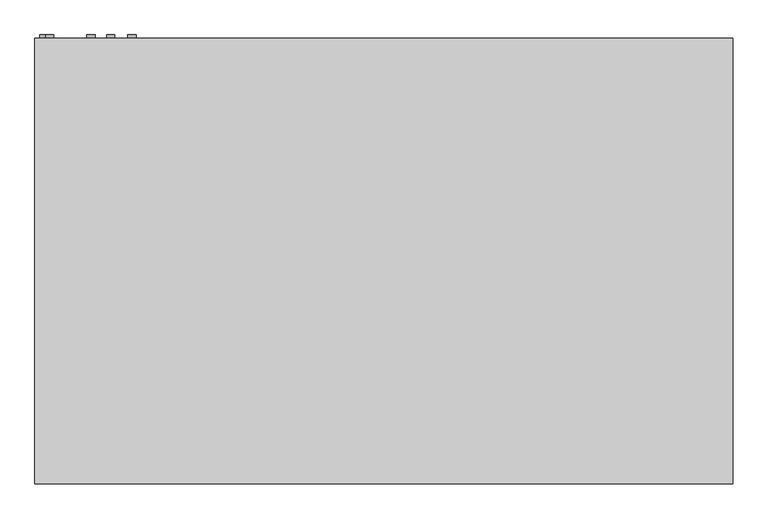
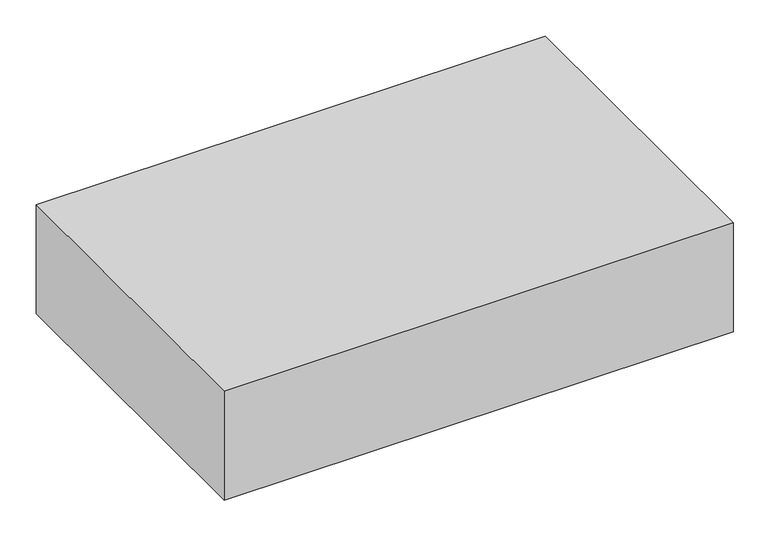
"""IFC4 building model written with IfcOpenShell, lengths in millimetres: proxy geometry, Exposed_Horizontal_Fan_Coil_Unit_-_42CGB_-_CARRIER_-_4-Pipe_BS-BR_LH_2022 : Size 06 - 277v/60Hz/1Ph - 4/1 Coil."""

from ifc_helpers import new_model, si_unit, point, frame, frame_2d, origin, place, context, project, spatial, polyline, circle_curve, trimmed, segment, composite_curve, outline, extrude, source, transform, mapped, element, save


def mechanical_equipment_954641ab(model_context):
    return source(origin(), model_context, "Body", "SweptSolid", [
        extrude(outline(polyline([(592.1375, -439.7375), (592.1375, -611.1875), (-287.3375, -611.1875), (-287.3375, -439.7375), (592.1375, -439.7375)])), frame((0.0, 0.0, -311.15), z_axis=(0.0, 0.0, 1.0), x_axis=(1.0, 0.0, 0.0)), (0.0, 0.0, 1.0), 6.35),
        extrude(outline(composite_curve([segment(trimmed(circle_curve(frame_2d((-261.434158, -501.8546393)), 9.525), [point((-261.434158, -492.3296393))], [point((-261.434158, -511.3796393))], False, "CARTESIAN"), True, "CONTINUOUS"), segment(trimmed(circle_curve(frame_2d((-261.434158, -501.8546393)), 9.525), [point((-261.434158, -511.3796393))], [point((-261.434158, -492.3296393))], False, "CARTESIAN"), True, "CONTINUOUS")], self_intersect=False)), frame((0.0, 192.0875, 0.0), z_axis=(0.0, 1.0, 0.0), x_axis=(0.0, 0.0, 1.0)), (0.0, 0.0, 1.0), 6.35),
        extrude(outline(composite_curve([segment(trimmed(circle_curve(frame_2d((-85.725, -492.125)), 7.9375), [point((-85.725, -484.1875))], [point((-85.725, -500.0625))], False, "CARTESIAN"), True, "CONTINUOUS"), segment(trimmed(circle_curve(frame_2d((-85.725, -492.125)), 7.9375), [point((-85.725, -500.0625))], [point((-85.725, -484.1875))], False, "CARTESIAN"), True, "CONTINUOUS")], self_intersect=False)), frame((0.0, 192.0875, 0.0), z_axis=(0.0, 1.0, 0.0), x_axis=(0.0, 0.0, 1.0)), (0.0, 0.0, 1.0), 6.35),
        extrude(outline(composite_curve([segment(trimmed(circle_curve(frame_2d((-44.45, -412.75)), 7.9375), [point((-44.45, -404.8125))], [point((-44.45, -420.6875))], False, "CARTESIAN"), True, "CONTINUOUS"), segment(trimmed(circle_curve(frame_2d((-44.45, -412.75)), 7.9375), [point((-44.45, -420.6875))], [point((-44.45, -404.8125))], False, "CARTESIAN"), True, "CONTINUOUS")], self_intersect=False)), frame((0.0, 192.0875, 0.0), z_axis=(0.0, 1.0, 0.0), x_axis=(0.0, 0.0, 1.0)), (0.0, 0.0, 1.0), 6.35),
        extrude(outline(composite_curve([segment(trimmed(circle_curve(frame_2d((-95.25, -374.65)), 7.9375), [point((-95.25, -366.7125))], [point((-95.25, -382.5875))], False, "CARTESIAN"), True, "CONTINUOUS"), segment(trimmed(circle_curve(frame_2d((-95.25, -374.65)), 7.9375), [point((-95.25, -382.5875))], [point((-95.25, -366.7125))], False, "CARTESIAN"), True, "CONTINUOUS")], self_intersect=False)), frame((0.0, 192.0875, 0.0), z_axis=(0.0, 1.0, 0.0), x_axis=(0.0, 0.0, 1.0)), (0.0, 0.0, 1.0), 6.35),
        extrude(outline(composite_curve([segment(trimmed(circle_curve(frame_2d((-60.325, -333.375)), 7.9375), [point((-60.325, -325.4375))], [point((-60.325, -341.3125))], False, "CARTESIAN"), True, "CONTINUOUS"), segment(trimmed(circle_curve(frame_2d((-60.325, -333.375)), 7.9375), [point((-60.325, -341.3125))], [point((-60.325, -325.4375))], False, "CARTESIAN"), True, "CONTINUOUS")], self_intersect=False)), frame((0.0, 192.0875, 0.0), z_axis=(0.0, 1.0, 0.0), x_axis=(0.0, 0.0, 1.0)), (0.0, 0.0, 1.0), 6.35),
        extrude(outline(polyline([(-520.7, 192.0875), (825.5, 192.0875), (825.5, -668.3375), (-520.7, -668.3375), (-520.7, 192.0875)])), frame((0.0, 0.0, -304.8), z_axis=(0.0, 0.0, 1.0), x_axis=(1.0, 0.0, 0.0)), (0.0, 0.0, 1.0), 304.8),
        extrude(outline(polyline([(622.3, 115.8875), (622.3, -138.1125), (-317.5, -138.1125), (-317.5, 115.8875), (622.3, 115.8875)])), frame((0.0, 0.0, -311.15), z_axis=(0.0, 0.0, 1.0), x_axis=(1.0, 0.0, 0.0)), (0.0, 0.0, 1.0), 6.35),
    ])


if __name__ == "__main__":
    model = new_model("IFC4")
    model_context = context("Model", 3, world=origin())
    ifc_project = project(units=[si_unit("LENGTHUNIT", "METRE", prefix="MILLI")], contexts=[model_context])
    site = spatial("IfcSite", under=ifc_project)
    building = spatial("IfcBuilding", under=site)
    placement = place(None, origin())
    mechanical_equipment_shape = mechanical_equipment_954641ab(model_context)
    element("IfcBuildingElementProxy", 1, Name="Exposed_Horizontal_Fan_Coil_Unit_-_42CGB_-_CARRIER_-_4-Pipe_BS-BR_LH_2022 : Size 06 - 277v/60Hz/1Ph - 4/1 Coil", ObjectType="Exposed_Horizontal_Fan_Coil_Unit_-_42CGB_-_CARRIER_-_4-Pipe_BS-BR_LH_2022 : Size 06 - 277v/60Hz/1Ph - 4/1 Coil", at=placement, inside=building, context=model_context, shape_type="MappedRepresentation", body=[
        mapped(mechanical_equipment_shape, transform((0.0, 0.0, 0.0), x_axis=(1.0, 0.0, 0.0), y_axis=(0.0, 1.0, 0.0), z_axis=(0.0, 0.0, 1.0))),
    ])
    save(model, "model.ifc")
